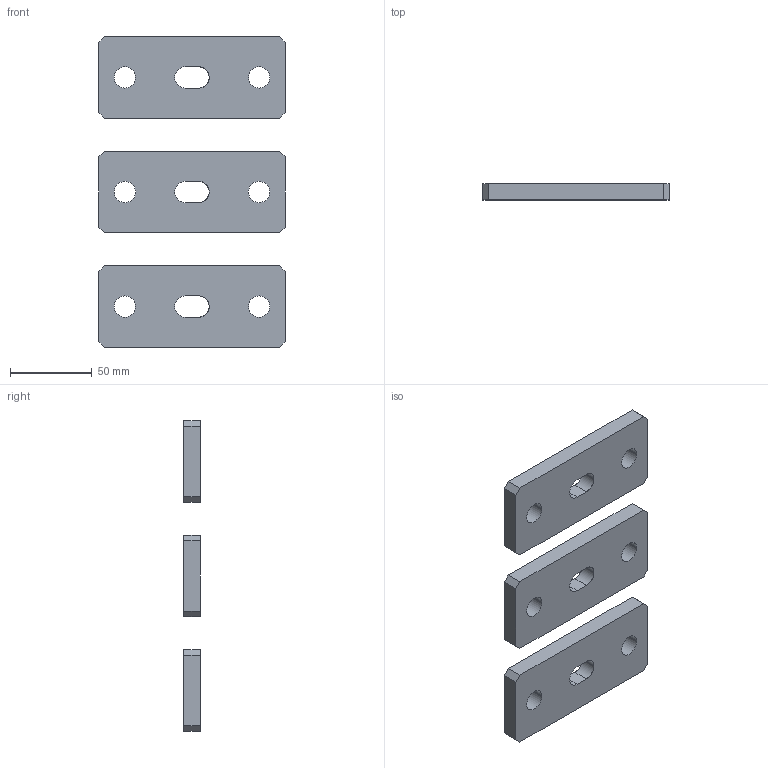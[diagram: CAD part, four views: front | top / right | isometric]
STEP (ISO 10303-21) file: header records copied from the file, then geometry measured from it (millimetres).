
FILE_DESCRIPTION (( 'STEP AP203' ), '1' );
FILE_NAME ('BE ACW800.STEP', '2021-11-10T12:35:08', ( '' ), ( '' ), 'SwSTEP 2.0', 'SolidWorks 2018', '' );
FILE_SCHEMA (( 'CONFIG_CONTROL_DESIGN' ));
Length unit declared in the file: millimetre
Products named in the file (1): BE ACW800
Bounding box: 114 x 10 x 190 mm (x, y, z)
Surface area: 44789.4 mm2 (no closed solid volume)
Topology: 0 solids, 3 shells, 57 faces, 159 edges, 102 vertices
Faces by surface type: plane 36, cylinder 21
Entity records: 2082 total; most frequent: CARTESIAN_POINT 529, ORIENTED_EDGE 300, DIRECTION 287, EDGE_CURVE 159, VECTOR 111, LINE 111, VERTEX_POINT 102, AXIS2_PLACEMENT_3D 88
